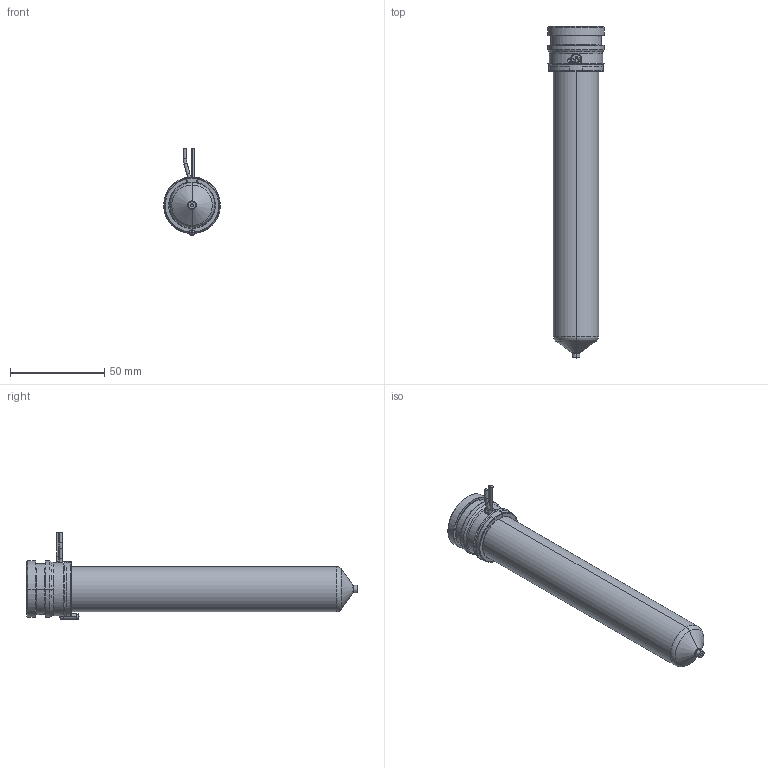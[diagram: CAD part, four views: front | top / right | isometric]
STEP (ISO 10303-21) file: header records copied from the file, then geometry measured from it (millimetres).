
FILE_DESCRIPTION((''),'2;1');
FILE_NAME('MPN-10-29-VP4-156-A','2026-02-05T12:43:15',('UPTIO'),('Thermoplay S.p.A.'),'CREO PARAMETRIC BY PTC INC, 2023494','CREO PARAMETRIC BY PTC INC, 2023494','');
FILE_SCHEMA(('CONFIG_CONTROL_DESIGN','SHAPE_APPEARANCE_LAYERS_GROUPS'));
Length unit declared in the file: millimetre
Products named in the file (1): MPN-10-29-VP4-156-A
Bounding box: 30 x 176.1 x 46 mm (x, y, z)
Volume: 54902.5 mm3; surface area: 55674.2 mm2
Topology: 2 solids, 3 shells, 580 faces, 1542 edges, 960 vertices
Faces by surface type: cylinder 180, plane 153, bspline 98, torus 70, cone 68, sphere 7, extrusion 4
Entity records: 32876 total; most frequent: CARTESIAN_POINT 15967, ORIENTED_EDGE 3072, DIRECTION 2691, EDGE_CURVE 1536, AXIS2_PLACEMENT_3D 1063, VERTEX_POINT 960, EDGE_LOOP 608, CIRCLE 584
